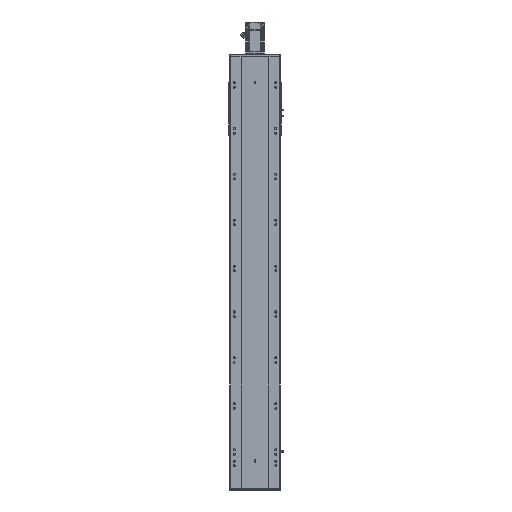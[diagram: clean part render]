
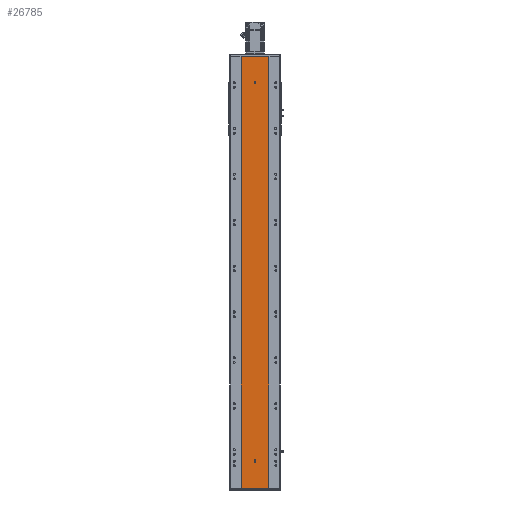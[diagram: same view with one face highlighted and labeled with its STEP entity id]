
A CAD part, front view. The second image highlights one B-rep face of the part: STEP entity #26785.
In plain terms, the highlighted planar face has unit normal (0, -1, 0).
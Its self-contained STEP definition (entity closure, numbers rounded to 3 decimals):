
#800 = VECTOR ( 'NONE', #57033, 1000. ) ;
#1403 = CIRCLE ( 'NONE', #7474, 4. ) ;
#1408 = ORIENTED_EDGE ( 'NONE', *, *, #69768, .F. ) ;
#1992 = DIRECTION ( 'NONE',  ( 0., 0., -1. ) ) ;
#2997 = CIRCLE ( 'NONE', #19156, 4. ) ;
#3638 = DIRECTION ( 'NONE',  ( 0., 0., 1. ) ) ;
#4287 = CIRCLE ( 'NONE', #54604, 4. ) ;
#7474 = AXIS2_PLACEMENT_3D ( 'NONE', #64127, #75317, #28043 ) ;
#8321 = VECTOR ( 'NONE', #63737, 1000. ) ;
#9078 = LINE ( 'NONE', #9525, #800 ) ;
#9525 = CARTESIAN_POINT ( 'NONE',  ( 4., 0., 116.5 ) ) ;
#9846 = AXIS2_PLACEMENT_3D ( 'NONE', #50894, #68574, #45216 ) ;
#12281 = VERTEX_POINT ( 'NONE', #45596 ) ;
#12382 = CARTESIAN_POINT ( 'NONE',  ( -60., 0., 1882. ) ) ;
#13704 = LINE ( 'NONE', #65638, #35114 ) ;
#14940 = FACE_BOUND ( 'NONE', #36535, .T. ) ;
#15493 = CARTESIAN_POINT ( 'NONE',  ( 0., 0., 116.5 ) ) ;
#16938 = EDGE_CURVE ( 'NONE', #24134, #37296, #13704, .T. ) ;
#17049 = VERTEX_POINT ( 'NONE', #24817 ) ;
#19156 = AXIS2_PLACEMENT_3D ( 'NONE', #34336, #46290, #58701 ) ;
#20854 = ORIENTED_EDGE ( 'NONE', *, *, #25056, .T. ) ;
#21649 = CARTESIAN_POINT ( 'NONE',  ( 0., 0., 112.5 ) ) ;
#21666 = CARTESIAN_POINT ( 'NONE',  ( 4., 0., 116.5 ) ) ;
#21920 = CARTESIAN_POINT ( 'NONE',  ( -60., 0., 1882. ) ) ;
#22851 = CARTESIAN_POINT ( 'NONE',  ( -4., 0., 119.5 ) ) ;
#23264 = FACE_BOUND ( 'NONE', #73724, .T. ) ;
#23980 = AXIS2_PLACEMENT_3D ( 'NONE', #33245, #74788, #3638 ) ;
#24068 = EDGE_CURVE ( 'NONE', #12281, #30469, #1403, .T. ) ;
#24134 = VERTEX_POINT ( 'NONE', #22851 ) ;
#24817 = CARTESIAN_POINT ( 'NONE',  ( 60., 0., 1882. ) ) ;
#25056 = EDGE_CURVE ( 'NONE', #47325, #68046, #58863, .T. ) ;
#25576 = VERTEX_POINT ( 'NONE', #12382 ) ;
#26326 = VECTOR ( 'NONE', #60248, 1000. ) ;
#26785 = ADVANCED_FACE ( 'NONE', ( #14940, #23264, #68830 ), #51391, .F. ) ;
#27554 = CARTESIAN_POINT ( 'NONE',  ( 60., 0., 0. ) ) ;
#27958 = DIRECTION ( 'NONE',  ( 0., -1., 0. ) ) ;
#28043 = DIRECTION ( 'NONE',  ( 0., 0., -1. ) ) ;
#28842 = VERTEX_POINT ( 'NONE', #21649 ) ;
#30469 = VERTEX_POINT ( 'NONE', #38173 ) ;
#30572 = ORIENTED_EDGE ( 'NONE', *, *, #56561, .F. ) ;
#30576 = EDGE_CURVE ( 'NONE', #28842, #53302, #68762, .T. ) ;
#31774 = LINE ( 'NONE', #47629, #45725 ) ;
#32518 = ORIENTED_EDGE ( 'NONE', *, *, #24068, .F. ) ;
#33245 = CARTESIAN_POINT ( 'NONE',  ( -60., 0., 1882. ) ) ;
#34336 = CARTESIAN_POINT ( 'NONE',  ( 0., 0., 116.5 ) ) ;
#35114 = VECTOR ( 'NONE', #1992, 1000. ) ;
#35289 = VECTOR ( 'NONE', #47689, 1000. ) ;
#36535 = EDGE_LOOP ( 'NONE', ( #58797, #32518 ) ) ;
#37296 = VERTEX_POINT ( 'NONE', #55340 ) ;
#38173 = CARTESIAN_POINT ( 'NONE',  ( 0., 0., 1764. ) ) ;
#39901 = LINE ( 'NONE', #47957, #35289 ) ;
#40794 = DIRECTION ( 'NONE',  ( 0., 0., -1. ) ) ;
#41057 = DIRECTION ( 'NONE',  ( 0., -1., 0. ) ) ;
#41237 = ORIENTED_EDGE ( 'NONE', *, *, #71661, .F. ) ;
#42515 = ORIENTED_EDGE ( 'NONE', *, *, #67824, .F. ) ;
#42729 = AXIS2_PLACEMENT_3D ( 'NONE', #15493, #27958, #57007 ) ;
#43442 = EDGE_CURVE ( 'NONE', #30469, #12281, #71818, .T. ) ;
#44351 = ORIENTED_EDGE ( 'NONE', *, *, #30576, .F. ) ;
#45216 = DIRECTION ( 'NONE',  ( 0., 0., -1. ) ) ;
#45596 = CARTESIAN_POINT ( 'NONE',  ( 0., 0., 1772. ) ) ;
#45725 = VECTOR ( 'NONE', #59803, 1000. ) ;
#46290 = DIRECTION ( 'NONE',  ( 0., -1., 0. ) ) ;
#47325 = VERTEX_POINT ( 'NONE', #72693 ) ;
#47629 = CARTESIAN_POINT ( 'NONE',  ( 60., 0., 1882. ) ) ;
#47689 = DIRECTION ( 'NONE',  ( 0., 0., -1. ) ) ;
#47957 = CARTESIAN_POINT ( 'NONE',  ( -60., 0., 1882. ) ) ;
#50894 = CARTESIAN_POINT ( 'NONE',  ( 0., 0., 1768. ) ) ;
#51391 = PLANE ( 'NONE',  #23980 ) ;
#51521 = ORIENTED_EDGE ( 'NONE', *, *, #55368, .T. ) ;
#53302 = VERTEX_POINT ( 'NONE', #21666 ) ;
#54292 = CARTESIAN_POINT ( 'NONE',  ( -60., 0., 0. ) ) ;
#54604 = AXIS2_PLACEMENT_3D ( 'NONE', #76591, #41057, #40794 ) ;
#55340 = CARTESIAN_POINT ( 'NONE',  ( -4., 0., 116.5 ) ) ;
#55368 = EDGE_CURVE ( 'NONE', #25576, #47325, #39901, .T. ) ;
#55683 = CARTESIAN_POINT ( 'NONE',  ( 4., 0., 119.5 ) ) ;
#56561 = EDGE_CURVE ( 'NONE', #53302, #61431, #9078, .T. ) ;
#57007 = DIRECTION ( 'NONE',  ( 0., 0., -1. ) ) ;
#57033 = DIRECTION ( 'NONE',  ( 0., 0., 1. ) ) ;
#58701 = DIRECTION ( 'NONE',  ( 0., 0., -1. ) ) ;
#58797 = ORIENTED_EDGE ( 'NONE', *, *, #43442, .F. ) ;
#58863 = LINE ( 'NONE', #54292, #26326 ) ;
#59803 = DIRECTION ( 'NONE',  ( 0., 0., -1. ) ) ;
#60248 = DIRECTION ( 'NONE',  ( 1., 0., 0. ) ) ;
#61431 = VERTEX_POINT ( 'NONE', #55683 ) ;
#63491 = EDGE_CURVE ( 'NONE', #61431, #24134, #4287, .T. ) ;
#63737 = DIRECTION ( 'NONE',  ( 1., 0., 0. ) ) ;
#64127 = CARTESIAN_POINT ( 'NONE',  ( 0., 0., 1768. ) ) ;
#65638 = CARTESIAN_POINT ( 'NONE',  ( -4., 0., 116.5 ) ) ;
#67824 = EDGE_CURVE ( 'NONE', #17049, #68046, #31774, .T. ) ;
#68046 = VERTEX_POINT ( 'NONE', #27554 ) ;
#68574 = DIRECTION ( 'NONE',  ( 0., -1., 0. ) ) ;
#68762 = CIRCLE ( 'NONE', #42729, 4. ) ;
#68830 = FACE_OUTER_BOUND ( 'NONE', #70371, .T. ) ;
#69768 = EDGE_CURVE ( 'NONE', #37296, #28842, #2997, .T. ) ;
#70371 = EDGE_LOOP ( 'NONE', ( #20854, #42515, #41237, #51521 ) ) ;
#71661 = EDGE_CURVE ( 'NONE', #25576, #17049, #73404, .T. ) ;
#71818 = CIRCLE ( 'NONE', #9846, 4. ) ;
#72693 = CARTESIAN_POINT ( 'NONE',  ( -60., 0., 0. ) ) ;
#73404 = LINE ( 'NONE', #21920, #8321 ) ;
#73724 = EDGE_LOOP ( 'NONE', ( #30572, #44351, #1408, #76543, #75715 ) ) ;
#74788 = DIRECTION ( 'NONE',  ( 0., 1., 0. ) ) ;
#75317 = DIRECTION ( 'NONE',  ( 0., -1., 0. ) ) ;
#75715 = ORIENTED_EDGE ( 'NONE', *, *, #63491, .F. ) ;
#76543 = ORIENTED_EDGE ( 'NONE', *, *, #16938, .F. ) ;
#76591 = CARTESIAN_POINT ( 'NONE',  ( 0., 0., 119.5 ) ) ;
